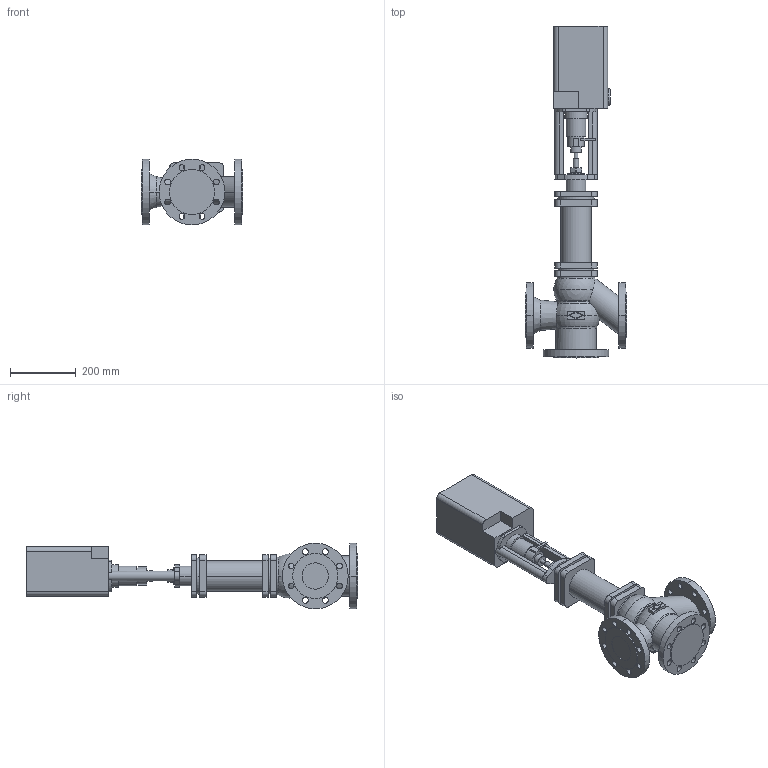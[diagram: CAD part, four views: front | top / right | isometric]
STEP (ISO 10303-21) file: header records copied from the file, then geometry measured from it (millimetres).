
FILE_DESCRIPTION(('OneSpaceDesigner STEP Export'),'2;1');
FILE_NAME('c000002448.stp','2006-09-21T11:48:09',(''),(''),'OneSpace Designer STEP processor for AP214 (Solid Model)','OneSpace Designer 13.20A 18-Aug-2005 (C) CoCreate Software GmbH','');
FILE_SCHEMA(('AUTOMOTIVE_DESIGN { 1 0 10303 214 1 1 1 1 }'));
Length unit declared in the file: millimetre
Products named in the file (2): 1; 2
Bounding box: 310 x 1011.7 x 200 mm (x, y, z)
Volume: 15512042.3 mm3; surface area: 804067.3 mm2
Topology: 2 solids, 2 shells, 270 faces, 700 edges, 460 vertices
Faces by surface type: cylinder 136, plane 114, torus 12, sphere 4, cone 4
Entity records: 7829 total; most frequent: CARTESIAN_POINT 1537, ORIENTED_EDGE 1392, DIRECTION 1181, EDGE_CURVE 696, VERTEX_POINT 460, AXIS2_PLACEMENT_3D 417, EDGE_LOOP 348, VECTOR 347
